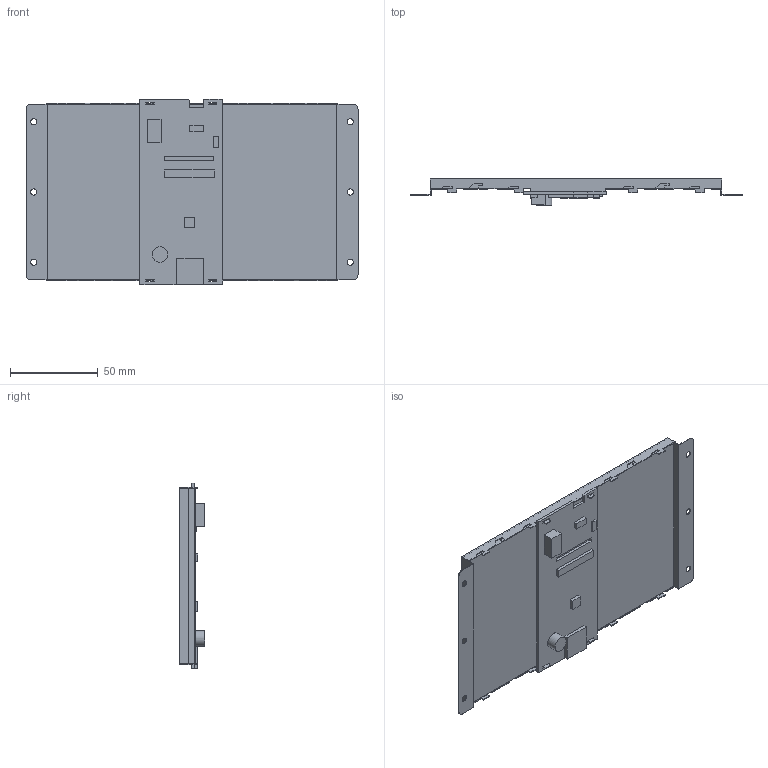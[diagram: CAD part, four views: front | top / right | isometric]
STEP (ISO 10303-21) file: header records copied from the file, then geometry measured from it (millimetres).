
FILE_DESCRIPTION(/* description */ (''),/* implementation_level */ '2;1');
FILE_NAME(/* name */ '',/* time_stamp */ '2023-10-23T14:30:50+08:00',/* author */ (''),/* organization */ (''),/* preprocessor_version */ 'ST-DEVELOPER v11',/* originating_system */ 'SIEMENS PLM Software NX 7.5',/* authorisation */ '');
FILE_SCHEMA (('AP203_CONFIGURATION_CONTROLLED_3D_DESIGN_OF_MECHANICAL_PARTS_AND_ASSEMBLIES_MIM_LF'));
Length unit declared in the file: millimetre
Products named in the file (1): 3D-SDWb070T74N_stp
Bounding box: 189.1 x 14.71 x 105.4 mm (x, y, z)
Volume: 93017.9 mm3; surface area: 91149.3 mm2
Topology: 12 solids, 12 shells, 261 faces, 707 edges, 470 vertices
Faces by surface type: plane 243, cylinder 17, extrusion 1
Full cylindrical faces by diameter (mm): 8.89 x1
Entity records: 8585 total; most frequent: CARTESIAN_POINT 1788, ORIENTED_EDGE 1412, DIRECTION 1189, EDGE_CURVE 706, VECTOR 603, LINE 602, VERTEX_POINT 470, AXIS2_PLACEMENT_3D 293
